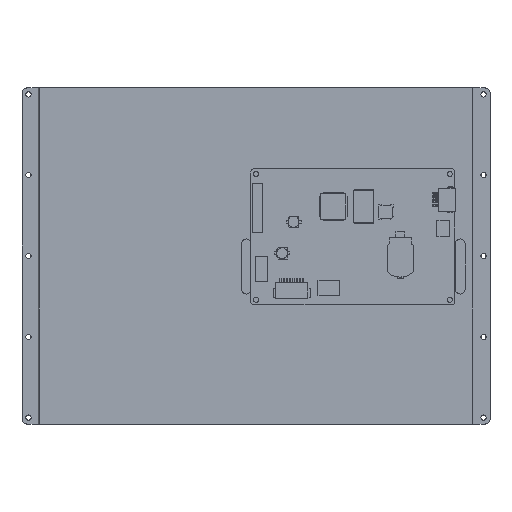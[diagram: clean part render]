
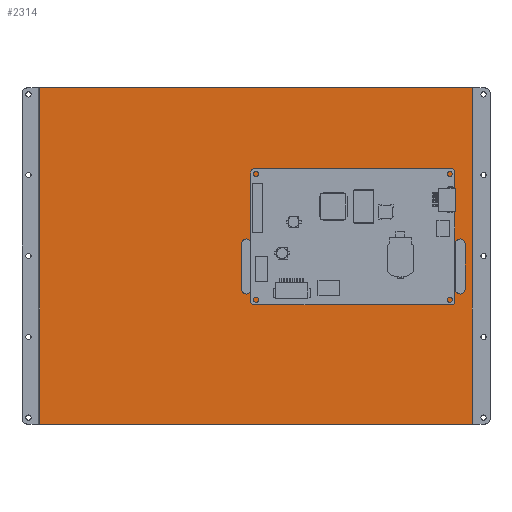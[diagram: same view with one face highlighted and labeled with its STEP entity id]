
A CAD part, top view. The second image highlights one B-rep face of the part: STEP entity #2314.
In plain terms, the highlighted planar face has unit normal (0, 0, 1).
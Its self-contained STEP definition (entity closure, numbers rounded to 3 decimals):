
#229=FACE_BOUND('',#6507,.T.);
#230=FACE_BOUND('',#6508,.T.);
#231=FACE_BOUND('',#6509,.T.);
#2314=ADVANCED_FACE('',(#229,#230,#231),#3697,.T.);
#3697=PLANE('',#29630);
#6507=EDGE_LOOP('',(#13645,#13646,#13647,#13648));
#6508=EDGE_LOOP('',(#13649,#13650,#13651,#13652));
#6509=EDGE_LOOP('',(#13653,#13654,#13655,#13656));
#13645=ORIENTED_EDGE('',*,*,#19795,.F.);
#13646=ORIENTED_EDGE('',*,*,#19796,.F.);
#13647=ORIENTED_EDGE('',*,*,#19797,.F.);
#13648=ORIENTED_EDGE('',*,*,#19798,.F.);
#13649=ORIENTED_EDGE('',*,*,#19799,.F.);
#13650=ORIENTED_EDGE('',*,*,#19800,.F.);
#13651=ORIENTED_EDGE('',*,*,#19801,.F.);
#13652=ORIENTED_EDGE('',*,*,#19802,.F.);
#13653=ORIENTED_EDGE('',*,*,#19803,.F.);
#13654=ORIENTED_EDGE('',*,*,#19794,.F.);
#13655=ORIENTED_EDGE('',*,*,#19804,.T.);
#13656=ORIENTED_EDGE('',*,*,#19805,.T.);
#16173=VERTEX_POINT('',#44349);
#16174=VERTEX_POINT('',#44351);
#16175=VERTEX_POINT('',#44355);
#16176=VERTEX_POINT('',#44356);
#16177=VERTEX_POINT('',#44358);
#16178=VERTEX_POINT('',#44360);
#16179=VERTEX_POINT('',#44363);
#16180=VERTEX_POINT('',#44364);
#16181=VERTEX_POINT('',#44366);
#16182=VERTEX_POINT('',#44368);
#16183=VERTEX_POINT('',#44371);
#16184=VERTEX_POINT('',#44373);
#19794=EDGE_CURVE('',#16174,#16173,#23985,.T.);
#19795=EDGE_CURVE('',#16175,#16176,#23986,.T.);
#19796=EDGE_CURVE('',#16177,#16175,#20009,.T.);
#19797=EDGE_CURVE('',#16178,#16177,#23987,.T.);
#19798=EDGE_CURVE('',#16176,#16178,#20010,.T.);
#19799=EDGE_CURVE('',#16179,#16180,#23988,.T.);
#19800=EDGE_CURVE('',#16181,#16179,#20011,.T.);
#19801=EDGE_CURVE('',#16182,#16181,#23989,.T.);
#19802=EDGE_CURVE('',#16180,#16182,#20012,.T.);
#19803=EDGE_CURVE('',#16173,#16183,#23990,.T.);
#19804=EDGE_CURVE('',#16174,#16184,#23991,.T.);
#19805=EDGE_CURVE('',#16184,#16183,#23992,.T.);
#20009=CIRCLE('',#29626,3.);
#20010=CIRCLE('',#29627,3.);
#20011=CIRCLE('',#29628,3.);
#20012=CIRCLE('',#29629,3.);
#23985=LINE('',#44352,#27646);
#23986=LINE('',#44354,#27647);
#23987=LINE('',#44359,#27648);
#23988=LINE('',#44362,#27649);
#23989=LINE('',#44367,#27650);
#23990=LINE('',#44370,#27651);
#23991=LINE('',#44372,#27652);
#23992=LINE('',#44374,#27653);
#27646=VECTOR('',#36178,1.);
#27647=VECTOR('',#36181,1.);
#27648=VECTOR('',#36184,1.);
#27649=VECTOR('',#36187,1.);
#27650=VECTOR('',#36190,1.);
#27651=VECTOR('',#36193,1.);
#27652=VECTOR('',#36194,1.);
#27653=VECTOR('',#36195,1.);
#29626=AXIS2_PLACEMENT_3D('',#44357,#36182,#36183);
#29627=AXIS2_PLACEMENT_3D('',#44361,#36185,#36186);
#29628=AXIS2_PLACEMENT_3D('',#44365,#36188,#36189);
#29629=AXIS2_PLACEMENT_3D('',#44369,#36191,#36192);
#29630=AXIS2_PLACEMENT_3D('',#44375,#36196,#36197);
#36178=DIRECTION('',(0.,1.,0.));
#36181=DIRECTION('',(0.,-1.,0.));
#36182=DIRECTION('',(0.,0.,1.));
#36183=DIRECTION('',(1.,0.,0.));
#36184=DIRECTION('',(0.,1.,0.));
#36185=DIRECTION('',(0.,0.,1.));
#36186=DIRECTION('',(1.,0.,0.));
#36187=DIRECTION('',(0.,-1.,0.));
#36188=DIRECTION('',(0.,0.,1.));
#36189=DIRECTION('',(1.,0.,0.));
#36190=DIRECTION('',(0.,1.,0.));
#36191=DIRECTION('',(0.,0.,1.));
#36192=DIRECTION('',(1.,0.,0.));
#36193=DIRECTION('',(1.,0.,0.));
#36194=DIRECTION('',(1.,0.,0.));
#36195=DIRECTION('',(0.,1.,0.));
#36196=DIRECTION('',(0.,0.,1.));
#36197=DIRECTION('',(1.,0.,0.));
#44349=CARTESIAN_POINT('',(307.625,400.664,-3.6));
#44351=CARTESIAN_POINT('',(307.625,193.264,-3.6));
#44352=CARTESIAN_POINT('',(307.625,193.264,-3.6));
#44354=CARTESIAN_POINT('',(564.025,304.464,-3.6));
#44355=CARTESIAN_POINT('',(564.025,304.464,-3.6));
#44356=CARTESIAN_POINT('',(564.025,276.464,-3.6));
#44357=CARTESIAN_POINT('',(567.025,304.464,-3.6));
#44358=CARTESIAN_POINT('',(570.025,304.464,-3.6));
#44359=CARTESIAN_POINT('',(570.025,276.464,-3.6));
#44360=CARTESIAN_POINT('',(570.025,276.464,-3.6));
#44361=CARTESIAN_POINT('',(567.025,276.464,-3.6));
#44362=CARTESIAN_POINT('',(432.025,304.464,-3.6));
#44363=CARTESIAN_POINT('',(432.025,304.464,-3.6));
#44364=CARTESIAN_POINT('',(432.025,276.464,-3.6));
#44365=CARTESIAN_POINT('',(435.025,304.464,-3.6));
#44366=CARTESIAN_POINT('',(438.025,304.464,-3.6));
#44367=CARTESIAN_POINT('',(438.025,276.464,-3.6));
#44368=CARTESIAN_POINT('',(438.025,276.464,-3.6));
#44369=CARTESIAN_POINT('',(435.025,276.464,-3.6));
#44370=CARTESIAN_POINT('',(307.625,400.664,-3.6));
#44371=CARTESIAN_POINT('',(574.425,400.664,-3.6));
#44372=CARTESIAN_POINT('',(307.625,193.264,-3.6));
#44373=CARTESIAN_POINT('',(574.425,193.264,-3.6));
#44374=CARTESIAN_POINT('',(574.425,193.264,-3.6));
#44375=CARTESIAN_POINT('',(307.625,193.264,-3.6));
